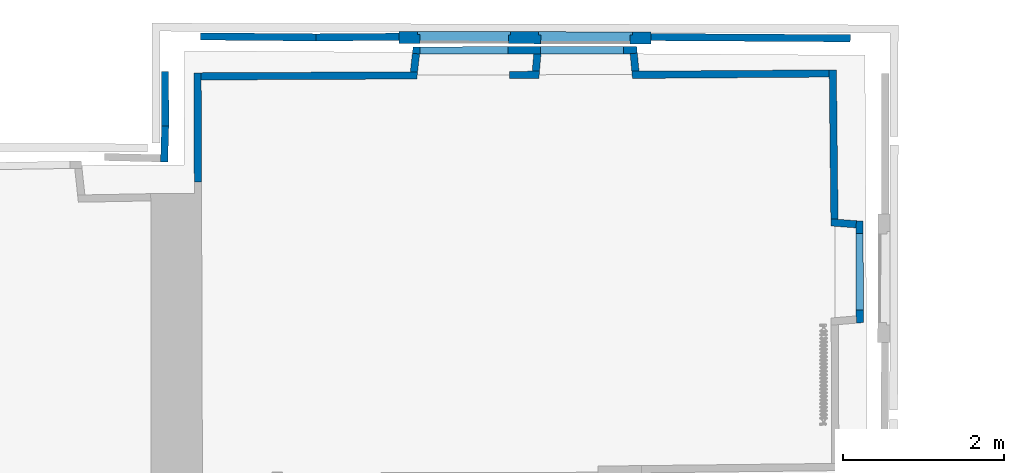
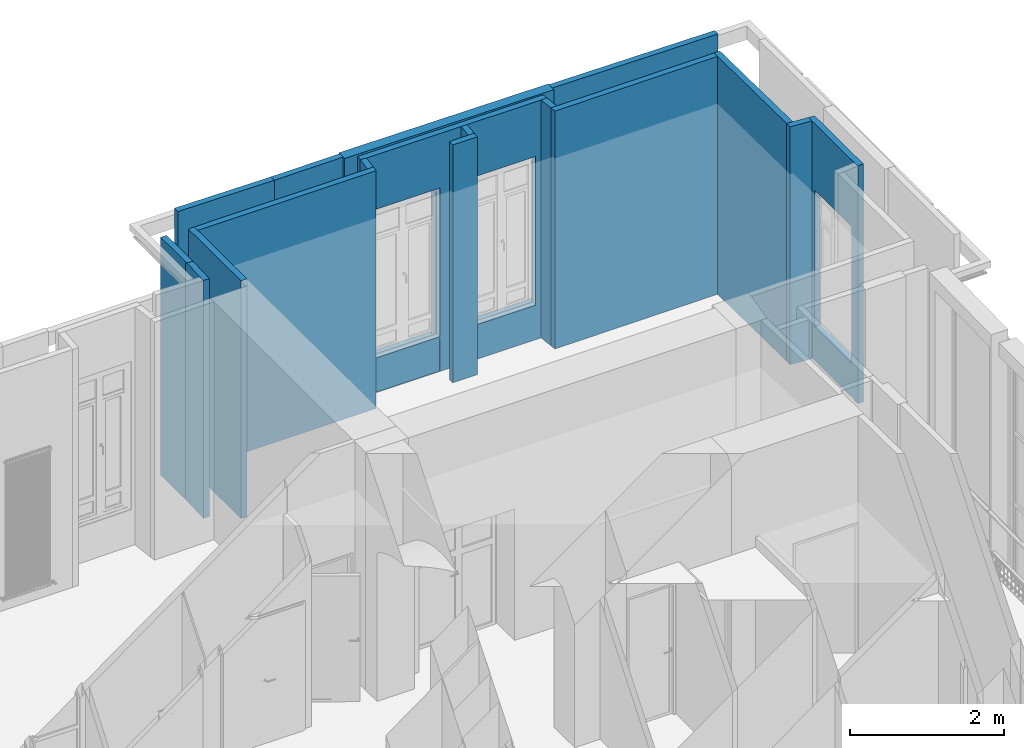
# One storey, part 17 of 66: 17 walls, 7 openings.
"""IFC2X3 building model written with IfcOpenShell, lengths in centimetres."""

from ifc_helpers import new_model, entity, si_unit, converted_unit, direction, frame, origin, origin_with_axes, origin_2d_with_axis, place, context, subcontext, project, spatial, polyline, rectangle, outline, extrude, faceted_brep, shape, material, layer, layer_set, layer_usage, type_object, element, save


model = new_model("IFC2X3")

# Units and contexts
model_context = context("Model", 3, precision=0.0001, world=origin(), true_north=direction((0.225632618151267, 0.974212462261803, 0.0)))
body_context = subcontext(model_context, "Body", "Model", "MODEL_VIEW")
footprint_context = subcontext(model_context, "FootPrint", "Model", "MODEL_VIEW")
profile_context = subcontext(model_context, "Profile", "Model", "MODEL_VIEW")
ifc_project = project(units=[si_unit("LENGTHUNIT", "METRE", prefix="CENTI"), si_unit("AREAUNIT", "SQUARE_METRE", prefix="CENTI"), si_unit("VOLUMEUNIT", "CUBIC_METRE", prefix="CENTI"), converted_unit("PLANEANGLEUNIT", "DEGREE", entity("IfcRatioMeasure", 0.0174532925), si_unit("PLANEANGLEUNIT", "RADIAN"), dimensions=[0, 0, 0, 0, 0, 0, 0])], contexts=[model_context])

# Site, building, storey
site_placement = place(None, origin_with_axes())
site = spatial("IfcSite", under=ifc_project, at=site_placement, Name="Default Site", CompositionType="ELEMENT")
building_placement = place(site_placement, origin_with_axes())
building = spatial("IfcBuilding", under=site, at=building_placement, Name="Default Building", CompositionType="ELEMENT")
storey_placement = place(building_placement, frame((0.0, 0.0, 477.795358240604), z_axis=(0.0, 0.0, 1.0), x_axis=(1.0, 0.0, 0.0)))
storey = spatial("IfcBuildingStorey", under=building, at=storey_placement, Name="Niveau 1", CompositionType="ELEMENT", Elevation=477.795358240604)

# Walls
ifc_material = material(Name="<aucun>")
ifc_layer_1 = layer(ifc_material, 9.0)
ifc_layer_set_1 = layer_set([ifc_layer_1], Name="default")
ifc_layer_usage_1 = layer_usage(ifc_layer_set_1, "AXIS2", "POSITIVE", -4.5)
wall_type_1 = type_object("IfcWallType", Name="default 90", PredefinedType="NOTDEFINED", material=ifc_layer_set_1)
wall_1_placement = place(storey_placement, frame((678.490961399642, 706.35423345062, 0.0128503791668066), z_axis=(0.0, 0.0, 1.0), x_axis=(0.999989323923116, 0.00462082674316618, 0.0)))
element("IfcWallStandardCase", 1, at=wall_1_placement, inside=storey, type_object=wall_type_1, material=ifc_layer_usage_1, Name="Enveloppe 750970", context=body_context, shape_type="SweptSolid", body=[
    extrude(outline(polyline([(-8.88178419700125e-14, 4.50000000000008), (-8.88178419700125e-14, -4.4999999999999), (36.6832158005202, -4.49999999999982), (37.4913403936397, 4.50000000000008), (-8.88178419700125e-14, 4.50000000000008)])), frame((0.0, 0.0, -8.88178419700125e-14), z_axis=(0.0, 0.0, 1.0), x_axis=(1.0, 0.0, 0.0)), (0.0, 0.0, 1.0), 376.102165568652),
])
ifc_layer_usage_2 = layer_usage(ifc_layer_set_1, "AXIS2", "POSITIVE", -4.5)
wall_2_placement = place(storey_placement, frame((710.706219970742, 702.351728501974, 0.0128503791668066), z_axis=(0.0, 0.0, 1.0), x_axis=(0.0848285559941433, 0.996395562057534, 0.0)))
element("IfcWallStandardCase", 2, at=wall_2_placement, inside=storey, type_object=wall_type_1, material=ifc_layer_usage_2, Name="Enveloppe 751070", context=body_context, shape_type="SweptSolid", body=[
    extrude(outline(polyline([(8.28206683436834, 4.50000000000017), (9.09019142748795, -4.49999999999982), (30.641776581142, -4.49999999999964), (29.8621883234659, 4.49999999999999), (8.28206683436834, 4.50000000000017)])), frame((0.0, 0.0, 1.77635683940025e-13), z_axis=(0.0, 0.0, 1.0), x_axis=(1.0, 0.0, 0.0)), (0.0, 0.0, 1.0), 376.102165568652),
])
ifc_layer_usage_3 = layer_usage(ifc_layer_set_1, "AXIS2", "POSITIVE", -4.5)
wall_3_placement = place(storey_placement, frame((1082.01971511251, 518.980635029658, 0.0128503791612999), z_axis=(0.0, 0.0, 1.0), x_axis=(-0.011252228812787, 0.9999366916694, 0.0)))
element("IfcWallStandardCase", 3, at=wall_3_placement, inside=storey, type_object=wall_type_1, material=ifc_layer_usage_3, Name="Enveloppe 597120", context=body_context, shape_type="SweptSolid", body=[
    extrude(outline(polyline([(193.770221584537, 4.50000000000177), (9.03313270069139, 4.49999999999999), (8.2323796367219, -4.50000000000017), (193.731778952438, -4.49999999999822), (193.770221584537, 4.50000000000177)])), origin_with_axes(), (0.0, 0.0, 1.0), 376.102165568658),
])

# Wall, openings
ifc_layer_usage_4 = layer_usage(ifc_layer_set_1, "AXIS2", "POSITIVE", -4.5)
wall_4_placement = place(storey_placement, frame((1113.364510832, 403.269412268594, 0.0128503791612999), z_axis=(0.0, 0.0, 1.0), x_axis=(-0.00298457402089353, 0.999995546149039, 0.0)))
wall_4 = element("IfcWallStandardCase", 4, at=wall_4_placement, inside=storey, type_object=wall_type_1, material=ifc_layer_usage_4, Name="Enveloppe 597122", context=body_context, shape_type="SweptSolid", body=[
    extrude(outline(polyline([(113.264703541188, 4.50000000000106), (4.15170625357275, 4.49999999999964), (-4.81916934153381, 3.77654229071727), (-4.15170625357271, -4.49999999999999), (121.568116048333, -4.49999999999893), (122.235579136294, 3.77654229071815), (113.264703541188, 4.50000000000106)])), frame((0.0, 0.0, -8.88178419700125e-14), z_axis=(0.0, 0.0, 1.0), x_axis=(1.0, 0.0, 0.0)), (0.0, 0.0, 1.0), 376.102165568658),
])
opening_1_placement = place(wall_4_placement, frame((4.1517062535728, -2.27373675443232e-13, -8.88178419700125e-16), z_axis=(0.0, 0.0, 1.0), x_axis=(1.0, 8.13585310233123e-15, 0.0)))
cartesian_point_1 = entity("IfcCartesianPoint", [0.0, 0.0, 53.9])
cartesian_point_2 = entity("IfcCartesianPoint", [109.112997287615, 4.49999999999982])
element("IfcOpeningElement", 5, at=opening_1_placement, cuts=wall_4, Name="Baie 103169", ObjectType="Recess", shapes=[
    shape(body_context, "Body", "Brep", [faceted_brep([(-1.26850652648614e-05, 24.5000141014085, 53.8999842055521), (109.112974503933, 24.5000141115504, 53.8999842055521), (109.112974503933, 24.5000141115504, -1.92276754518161e-05), (-1.26850652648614e-05, 24.5000141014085, -1.92276754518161e-05), (-1.2683113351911e-05, 3.5000120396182, -1.92276754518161e-05), (-1.2683113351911e-05, 3.5000120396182, 53.8999842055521), (109.112974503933, 24.5000380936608, -1.92276754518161e-05), (109.11300252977, 3.50003603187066, -1.92276754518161e-05), (1.53407706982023e-05, 3.50001203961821, -1.92276754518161e-05), (109.112974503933, 24.5000380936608, 53.8999842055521), (109.112974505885, 3.50003603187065, 53.8999842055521), (109.112974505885, 3.50003603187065, -1.92276754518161e-05), (1.53407706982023e-05, 3.50001203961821, 53.8999842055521), (109.11300252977, 3.50003603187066, 53.8999842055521), (109.11300252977, 3.50001204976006, -1.92276754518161e-05), (109.11300252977, 3.50001204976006, 53.8999842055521)], [[[0, 1, 2, 3]], [[3, 4, 5, 0]], [[6, 7, 8, 3]], [[9, 10, 11, 6]], [[0, 12, 13, 9]], [[12, 8, 14, 15]]])]),
    shape(profile_context, "Profile", "GeometricCurveSet", [entity("IfcGeometricCurveSet", [entity("IfcPolyline", [cartesian_point_1, entity("IfcCartesianPoint", [0.0, 0.0, 0.0]), entity("IfcCartesianPoint", [109.112997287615, 0.0, 0.0]), entity("IfcCartesianPoint", [109.112997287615, 0.0, 53.9]), cartesian_point_1])])]),
    shape(footprint_context, "FootPrint", "GeometricCurveSet", [entity("IfcGeometricCurveSet", [entity("IfcPolyline", [cartesian_point_2, entity("IfcCartesianPoint", [0.0, 4.49999999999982]), entity("IfcCartesianPoint", [-8.88178419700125e-14, -4.49999999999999]), entity("IfcCartesianPoint", [109.112997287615, -4.49999999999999]), cartesian_point_2])])]),
])
opening_2_placement = place(wall_4_placement, frame((11.1517062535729, -2.27373675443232e-13, 54.8871496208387), z_axis=(0.0, 0.0, 1.0), x_axis=(1.0, 8.13585310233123e-15, 0.0)))
cartesian_point_3 = entity("IfcCartesianPoint", [0.0, 1.77635683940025e-13, 216.0])
cartesian_point_4 = entity("IfcCartesianPoint", [95.1129972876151, 4.49999999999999])
element("IfcOpeningElement", 6, at=opening_2_placement, cuts=wall_4, Name="4294966469_11", ObjectType="Opening", shapes=[
    shape(body_context, "Body", "SweptSolid", [extrude(outline(polyline([(0.0, 216.0), (0.0, 0.0), (95.1129972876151, 0.0), (95.1129972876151, 216.0), (0.0, 216.0)])), frame((0.0, 14.5, 0.0), z_axis=(0.0, -1.0, 0.0), x_axis=(1.0, 0.0, 0.0)), (0.0, 0.0, 1.0), 29.0)]),
    shape(profile_context, "Profile", "GeometricCurveSet", [entity("IfcGeometricCurveSet", [entity("IfcPolyline", [cartesian_point_3, entity("IfcCartesianPoint", [0.0, 1.77635683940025e-13, 0.0]), entity("IfcCartesianPoint", [95.112997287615, 1.77635683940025e-13, 0.0]), entity("IfcCartesianPoint", [95.112997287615, 1.77635683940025e-13, 216.0]), cartesian_point_3])])]),
    shape(footprint_context, "FootPrint", "GeometricCurveSet", [entity("IfcGeometricCurveSet", [entity("IfcPolyline", [cartesian_point_4, entity("IfcCartesianPoint", [0.0, 4.50000000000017]), entity("IfcCartesianPoint", [-8.88178419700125e-14, -4.49999999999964]), entity("IfcCartesianPoint", [95.112997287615, -4.49999999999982]), cartesian_point_4])])]),
])

# Walls
ifc_layer_usage_5 = layer_usage(ifc_layer_set_1, "AXIS2", "POSITIVE", -4.5)
wall_5_placement = place(storey_placement, frame((1108.87482410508, 521.006678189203, 0.0128503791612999), z_axis=(0.0, 0.0, 1.0), x_axis=(-0.996999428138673, 0.0774089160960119, 0.0)))
element("IfcWallStandardCase", 7, at=wall_5_placement, inside=storey, type_object=wall_type_1, material=ifc_layer_usage_5, Name="Enveloppe 597027", context=body_context, shape_type="SweptSolid", body=[
    extrude(outline(polyline([(31.9005269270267, -4.50000000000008), (31.0997738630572, 4.4999999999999), (1.77635683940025e-13, 4.50000000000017), (1.77635683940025e-13, -4.4999999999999), (31.9005269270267, -4.50000000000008)])), origin_with_axes(), (0.0, 0.0, 1.0), 376.102165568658),
])
ifc_layer_usage_6 = layer_usage(ifc_layer_set_1, "AXIS2", "POSITIVE", -4.5)
wall_6_placement = place(storey_placement, frame((296.164521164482, 704.587550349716, 0.0128503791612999), z_axis=(0.0, 0.0, 1.0), x_axis=(0.999989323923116, 0.00462082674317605, 0.0)))
element("IfcWallStandardCase", 8, at=wall_6_placement, inside=storey, type_object=wall_type_1, material=ifc_layer_usage_6, Name="Enveloppe 597556", context=body_context, shape_type="SweptSolid", body=[
    extrude(outline(polyline([(0.0138745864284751, 4.49999999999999), (-0.00038270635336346, -4.49999999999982), (267.51561751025, -4.4999999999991), (268.568408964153, 4.5000000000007), (0.0138745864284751, 4.49999999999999)])), origin_with_axes(), (0.0, 0.0, 1.0), 376.102165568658),
])
ifc_layer_usage_7 = layer_usage(ifc_layer_set_1, "AXIS2", "POSITIVE", -4.5)
wall_7_placement = place(storey_placement, frame((819.140221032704, 706.399264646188, 0.0128503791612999), z_axis=(0.0, 0.0, 1.0), x_axis=(0.999975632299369, 0.0069810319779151, 0.0)))
element("IfcWallStandardCase", 9, at=wall_7_placement, inside=storey, type_object=wall_type_1, material=ifc_layer_usage_7, Name="Enveloppe 597427", context=body_context, shape_type="SweptSolid", body=[
    extrude(outline(polyline([(11.3072421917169, 4.49999999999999), (12.1058786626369, -4.50000000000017), (256.275533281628, -4.49999999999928), (256.237090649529, 4.50000000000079), (11.3072421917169, 4.49999999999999)])), origin_with_axes(), (0.0, 0.0, 1.0), 376.102165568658),
])
ifc_layer_usage_8 = layer_usage(ifc_layer_set_1, "AXIS2", "POSITIVE", -4.5)
wall_8_placement = place(storey_placement, frame((835.733655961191, 702.653731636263, 0.0128503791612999), z_axis=(0.0, 0.0, 1.0), x_axis=(-0.095341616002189, 0.995444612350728, 0.0)))
element("IfcWallStandardCase", 10, at=wall_8_placement, inside=storey, type_object=wall_type_1, material=ifc_layer_usage_8, Name="Enveloppe 597462", context=body_context, shape_type="SweptSolid", body=[
    extrude(outline(polyline([(30.5789533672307, 4.49999999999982), (8.79345444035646, 4.49999999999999), (7.99481796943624, -4.49999999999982), (30.5789533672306, -4.49999999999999), (30.5789533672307, 4.49999999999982)])), frame((0.0, 0.0, -2.66453525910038e-13), z_axis=(0.0, 0.0, 1.0), x_axis=(1.0, 0.0, 0.0)), (0.0, 0.0, 1.0), 376.102165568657),
])
ifc_layer_usage_9 = layer_usage(ifc_layer_set_1, "AXIS2", "POSITIVE", -4.5)
wall_9_placement = place(storey_placement, frame((559.294444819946, 702.433784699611, 0.0128503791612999), z_axis=(0.0, 0.0, 1.0), x_axis=(0.111593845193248, 0.99375389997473, 0.0)))
element("IfcWallStandardCase", 11, at=wall_9_placement, inside=storey, type_object=wall_type_1, material=ifc_layer_usage_9, Name="Enveloppe 597590", context=body_context, shape_type="SweptSolid", body=[
    extrude(outline(polyline([(7.39688406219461, 4.49999999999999), (8.44967551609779, -4.4999999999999), (30.5383632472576, -4.50000000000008), (30.5383632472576, 4.49999999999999), (7.39688406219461, 4.49999999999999)])), origin_with_axes(), (0.0, 0.0, 1.0), 376.102165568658),
])
ifc_layer_usage_10 = layer_usage(ifc_layer_set_1, "AXIS2", "POSITIVE", -4.5)
wall_10_placement = place(storey_placement, frame((292.070071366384, 573.252993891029, 0.0128503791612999), z_axis=(0.0, 0.0, 1.0), x_axis=(-0.00303669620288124, 0.999995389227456, 0.0)))
element("IfcWallStandardCase", 12, at=wall_10_placement, inside=storey, type_object=wall_type_1, material=ifc_layer_usage_10, Name="Enveloppe 92637", context=body_context, shape_type="SweptSolid", body=[
    extrude(outline(polyline([(135.807276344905, 4.49999999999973), (0.0, 4.49999999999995), (0.0, -4.49999999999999), (135.821533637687, -4.5000000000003), (135.807276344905, 4.49999999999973)])), frame((0.0, 0.0, -2.66453525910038e-13), z_axis=(0.0, 0.0, 1.0), x_axis=(1.0, 0.0, 0.0)), (0.0, 0.0, 1.0), 376.102165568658),
])

# Wall, openings
ifc_layer_usage_11 = layer_usage(ifc_layer_set_1, "AXIS2", "POSITIVE", -4.5)
wall_11_placement = place(storey_placement, frame((553.661144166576, 736.75930817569, 0.0128503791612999), z_axis=(0.0, 0.0, 1.0), x_axis=(0.999998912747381, 0.00147461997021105, 0.0)))
wall_11 = element("IfcWallStandardCase", 13, at=wall_11_placement, inside=storey, type_object=wall_type_1, material=ifc_layer_usage_11, Name="Enveloppe 597463", context=body_context, shape_type="SweptSolid", body=[
    extrude(outline(polyline([(155.087994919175, 4.50000000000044), (5.47248589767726, 4.4999999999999), (4.56417112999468, -3.48246780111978), (13.5064654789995, -4.49999999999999), (155.087994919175, -4.49999999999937), (274.743839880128, -4.4931533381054), (283.631484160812, -3.6551375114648), (282.862536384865, 4.50000000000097), (155.087994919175, 4.50000000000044)])), origin_with_axes(), (0.0, 0.0, 1.0), 376.102165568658),
])
opening_3_placement = place(wall_11_placement, frame((13.802566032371, 1.13686837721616e-13, 0.0427702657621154), z_axis=(0.0, 0.0, 1.0), x_axis=(-1.0, -3.55097895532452e-15, 0.0)))
cartesian_point_5 = entity("IfcCartesianPoint", [0.0, 0.0, 52.5000000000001])
cartesian_point_6 = entity("IfcCartesianPoint", [-109.572289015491, -4.49999999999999])
element("IfcOpeningElement", 14, at=opening_3_placement, cuts=wall_11, Name="Baie 103161", ObjectType="Recess", shapes=[
    shape(body_context, "Body", "Brep", [faceted_brep([(-4.97626944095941e-06, 24.4999871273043, -1.72003466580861e-05), (-109.572296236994, 24.4999871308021, -1.72003466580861e-05), (-109.572296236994, 24.4999871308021, 52.4999923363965), (-4.97626944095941e-06, 24.4999871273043, 52.4999923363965), (-4.97693980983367e-06, 3.50000812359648, 52.4999923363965), (-4.97693980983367e-06, 3.50000812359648, -1.72003466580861e-05), (2.24506305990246e-05, 3.50000812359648, -1.72003466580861e-05), (-109.572268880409, 3.49998549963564, -1.72003466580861e-05), (-109.572296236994, 24.5000121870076, -1.72003466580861e-05), (-109.572296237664, 3.49998549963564, -1.72003466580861e-05), (-109.572296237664, 3.49998549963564, 52.4999923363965), (-109.572296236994, 24.5000121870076, 52.4999923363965), (-109.572268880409, 3.49998549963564, 52.4999923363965), (2.24506305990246e-05, 3.50000812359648, 52.4999923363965), (2.24506305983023e-05, 3.49998549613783, -1.72003466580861e-05), (2.24506305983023e-05, 3.49998549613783, 52.4999923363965)], [[[0, 1, 2, 3]], [[3, 4, 5, 0]], [[0, 6, 7, 8]], [[8, 9, 10, 11]], [[11, 12, 13, 3]], [[12, 7, 14, 15]]])]),
    shape(profile_context, "Profile", "GeometricCurveSet", [entity("IfcGeometricCurveSet", [entity("IfcPolyline", [cartesian_point_5, entity("IfcCartesianPoint", [0.0, 0.0, 8.88178419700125e-14]), entity("IfcCartesianPoint", [-109.572289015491, 8.88178419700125e-14, 8.88178419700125e-14]), entity("IfcCartesianPoint", [-109.572289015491, 8.88178419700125e-14, 52.5000000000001]), cartesian_point_5])])]),
    shape(footprint_context, "FootPrint", "GeometricCurveSet", [entity("IfcGeometricCurveSet", [entity("IfcPolyline", [cartesian_point_6, entity("IfcCartesianPoint", [0.0, -4.50000000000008]), entity("IfcCartesianPoint", [0.0, 4.49999999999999]), entity("IfcCartesianPoint", [-109.572289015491, 4.49999999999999]), cartesian_point_6])])]),
])
opening_4_placement = place(wall_11_placement, frame((13.802566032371, 1.13686837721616e-13, 54.8871496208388), z_axis=(0.0, 0.0, 1.0), x_axis=(-1.0, -3.55097895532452e-15, 0.0)))
cartesian_point_7 = entity("IfcCartesianPoint", [0.0, 0.0, 235.0])
cartesian_point_8 = entity("IfcCartesianPoint", [-109.572289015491, -4.49999999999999])
element("IfcOpeningElement", 15, at=opening_4_placement, cuts=wall_11, Name="4294966471_11", ObjectType="Opening", shapes=[
    shape(body_context, "Body", "SweptSolid", [extrude(outline(polyline([(0.0, 235.0), (0.0, 8.88178419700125e-14), (109.572289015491, 8.88178419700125e-14), (109.572289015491, 235.0), (0.0, 235.0)])), frame((0.0, -14.5, 0.0), z_axis=(0.0, 1.0, 0.0), x_axis=(-1.0, 0.0, 0.0)), (0.0, 0.0, 1.0), 29.0)]),
    shape(profile_context, "Profile", "GeometricCurveSet", [entity("IfcGeometricCurveSet", [entity("IfcPolyline", [cartesian_point_7, entity("IfcCartesianPoint", [0.0, 0.0, 8.88178419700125e-14]), entity("IfcCartesianPoint", [-109.572289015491, 8.88178419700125e-14, 8.88178419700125e-14]), entity("IfcCartesianPoint", [-109.572289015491, 8.88178419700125e-14, 235.0]), cartesian_point_7])])]),
    shape(footprint_context, "FootPrint", "GeometricCurveSet", [entity("IfcGeometricCurveSet", [entity("IfcPolyline", [cartesian_point_8, entity("IfcCartesianPoint", [0.0, -4.50000000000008]), entity("IfcCartesianPoint", [0.0, 4.49999999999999]), entity("IfcCartesianPoint", [-109.572289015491, 4.49999999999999]), cartesian_point_8])])]),
])
opening_5_placement = place(wall_11_placement, frame((163.673665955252, 6.82121026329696e-13, 54.5871496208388), z_axis=(0.0, 0.0, 1.0), x_axis=(-1.0, -3.39376964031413e-15, 0.0)))
cartesian_point_9 = entity("IfcCartesianPoint", [0.0, 0.0, 235.0])
cartesian_point_10 = entity("IfcCartesianPoint", [-102.866001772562, -4.49999999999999])
element("IfcOpeningElement", 16, at=opening_5_placement, cuts=wall_11, Name="4294966468_11", ObjectType="Opening", shapes=[
    shape(body_context, "Body", "SweptSolid", [extrude(outline(polyline([(0.0, 235.0), (0.0, 8.88178419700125e-14), (102.866001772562, 8.88178419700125e-14), (102.866001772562, 235.0), (0.0, 235.0)])), frame((0.0, -14.5, 0.0), z_axis=(0.0, 1.0, 0.0), x_axis=(-1.0, 0.0, 0.0)), (0.0, 0.0, 1.0), 29.0)]),
    shape(profile_context, "Profile", "GeometricCurveSet", [entity("IfcGeometricCurveSet", [entity("IfcPolyline", [cartesian_point_9, entity("IfcCartesianPoint", [0.0, 0.0, 8.88178419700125e-14]), entity("IfcCartesianPoint", [-102.866001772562, 8.88178419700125e-14, 8.88178419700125e-14]), entity("IfcCartesianPoint", [-102.866001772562, 8.88178419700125e-14, 235.0]), cartesian_point_9])])]),
    shape(footprint_context, "FootPrint", "GeometricCurveSet", [entity("IfcGeometricCurveSet", [entity("IfcPolyline", [cartesian_point_10, entity("IfcCartesianPoint", [0.0, -4.49999999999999]), entity("IfcCartesianPoint", [0.0, 4.49999999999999]), entity("IfcCartesianPoint", [-102.866001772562, 4.50000000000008]), cartesian_point_10])])]),
])

# Walls
ifc_layer_usage_12 = layer_usage(ifc_layer_set_1, "AXIS2", "POSITIVE", -4.5)
wall_type_2 = type_object("IfcWallType", Name="default 90", PredefinedType="NOTDEFINED", material=ifc_layer_set_1)
wall_12_placement = place(storey_placement, frame((250.458172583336, 607.261768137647, 0.0128503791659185), z_axis=(0.0, 0.0, 1.0), x_axis=(0.0284959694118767, 0.999593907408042, 0.0)))
element("IfcWallStandardCase", 17, at=wall_12_placement, inside=storey, type_object=wall_type_2, material=ifc_layer_usage_12, Name="Enveloppe 425112", context=body_context, shape_type="SweptSolid", body=[
    extrude(outline(polyline([(-8.99988852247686, 4.45520510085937), (-8.95531602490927, -4.50000000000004), (35.79453589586, -4.49999999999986), (35.7945358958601, 4.34939682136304), (39.9930335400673, 4.50000000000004), (-8.88178419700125e-14, 4.49999999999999), (-8.99988852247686, 4.45520510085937)])), frame((0.0, 0.0, -2.66453525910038e-13), z_axis=(0.0, 0.0, 1.0), x_axis=(1.0, 0.0, 0.0)), (0.0, 0.0, 1.0), 376.102165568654),
])
ifc_layer_usage_13 = layer_usage(ifc_layer_set_1, "AXIS2", "POSITIVE", -4.5)
wall_13_placement = place(storey_placement, frame((438.541050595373, 752.950168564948, 0.0128503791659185), z_axis=(0.0, 0.0, 1.0), x_axis=(-0.999962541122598, 0.00865542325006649, 0.0)))
element("IfcWallStandardCase", 18, at=wall_13_placement, inside=storey, type_object=wall_type_2, material=ifc_layer_usage_13, Name="Enveloppe 424905", context=body_context, shape_type="SweptSolid", body=[
    extrude(rectangle(XDim=9.00000000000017, YDim=143.277244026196, at=origin_2d_with_axis()), frame((71.6839398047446, 0.000151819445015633, -5.06261699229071e-12), z_axis=(0.0, 0.0, 1.0), x_axis=(1.70002900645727e-16, -1.0, 0.0)), (0.0, 0.0, 1.0), 376.102165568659),
])
ifc_layer_usage_14 = layer_usage(ifc_layer_set_1, "AXIS2", "POSITIVE", -4.5)
wall_14_placement = place(storey_placement, frame((251.630399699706, 643.201606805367, 0.0128503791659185), z_axis=(0.0, 0.0, 1.0), x_axis=(-0.00735546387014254, 0.999972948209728, 0.0)))
element("IfcWallStandardCase", 19, at=wall_14_placement, inside=storey, type_object=wall_type_2, material=ifc_layer_usage_14, Name="Enveloppe 425087", context=body_context, shape_type="SweptSolid", body=[
    extrude(outline(polyline([(67.6161972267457, 4.49999999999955), (-0.00279887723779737, 4.50000000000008), (-0.32002918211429, -4.34370900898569), (4.03703262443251, -4.49999999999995), (67.6161972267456, -4.50000000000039), (67.6161972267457, 4.49999999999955)])), frame((0.0, 0.0, -3.5527136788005e-13), z_axis=(0.0, 0.0, 1.0), x_axis=(1.0, 0.0, 0.0)), (0.0, 0.0, 1.0), 376.102165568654),
])
ifc_layer_usage_15 = layer_usage(ifc_layer_set_1, "AXIS2", "POSITIVE", -4.5)
wall_15_placement = place(storey_placement, frame((1101.69227034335, 751.851960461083, 0.0128503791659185), z_axis=(0.0, 0.0, 1.0), x_axis=(-0.999980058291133, 0.0063153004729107, 0.0)))
element("IfcWallStandardCase", 20, at=wall_15_placement, inside=storey, type_object=wall_type_2, material=ifc_layer_usage_15, Name="Enveloppe 424817", context=body_context, shape_type="SweptSolid", body=[
    extrude(outline(polyline([(247.222306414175, 4.49999999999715), (0.151043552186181, 4.49999999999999), (0.151043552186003, -4.49999999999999), (247.25421171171, -4.50000000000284), (247.222306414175, 4.49999999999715)])), origin_with_axes(), (0.0, 0.0, 1.0), 376.102165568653),
])
ifc_layer_usage_16 = layer_usage(ifc_layer_set_1, "AXIS2", "POSITIVE", -4.5)
wall_16_placement = place(storey_placement, frame((438.615562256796, 752.95005319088, 0.0128503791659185), z_axis=(0.0, 0.0, 1.0), x_axis=(0.999970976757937, 0.0076187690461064, 0.0)))
element("IfcWallStandardCase", 21, at=wall_16_placement, inside=storey, type_object=wall_type_2, material=ifc_layer_usage_16, Name="Enveloppe 424841", context=body_context, shape_type="SweptSolid", body=[
    extrude(outline(polyline([(-0.19305932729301, -4.49896349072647), (103.194590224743, -4.50000000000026), (103.294590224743, 4.49999999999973), (-0.0465922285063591, 4.50039561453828), (-0.19305932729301, -4.49896349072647)])), frame((0.0, 0.0, 8.88178419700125e-14), z_axis=(0.0, 0.0, 1.0), x_axis=(1.0, 0.0, 0.0)), (0.0, 0.0, 1.0), 376.102165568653),
])

# Wall, openings
ifc_layer_2 = layer(ifc_material, 15.0)
ifc_layer_set_2 = layer_set([ifc_layer_2], Name="default")
ifc_layer_usage_17 = layer_usage(ifc_layer_set_2, "AXIS2", "POSITIVE", -7.5)
wall_type_3 = type_object("IfcWallType", Name="default 150", PredefinedType="NOTDEFINED", material=ifc_layer_set_2)
wall_17_placement = place(storey_placement, frame((854.455515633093, 752.176668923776, 0.0128503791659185), z_axis=(0.0, 0.0, 1.0), x_axis=(-0.999996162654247, 0.00277032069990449, 0.0)))
wall_17 = element("IfcWallStandardCase", 22, at=wall_17_placement, inside=storey, type_object=wall_type_3, material=ifc_layer_usage_17, Name="Enveloppe 426578", context=body_context, shape_type="SweptSolid", body=[
    extrude(rectangle(XDim=14.9999999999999, YDim=312.598234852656, at=origin_2d_with_axis()), frame((156.299117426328, 1.50990331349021e-12, 0.0), z_axis=(0.0, 0.0, 1.0), x_axis=(-1.69135538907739e-17, -1.0, 0.0)), (0.0, 0.0, 1.0), 376.102165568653),
])
opening_6_placement = place(wall_17_placement, frame((174.265701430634, 1.70530256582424e-12, 45.7869154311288), z_axis=(0.0, 0.0, 1.0), x_axis=(-1.0, -9.11163505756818e-15, 0.0)))
cartesian_point_11 = entity("IfcCartesianPoint", [0.0, 8.88178419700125e-14, 246.832889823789])
cartesian_point_12 = entity("IfcCartesianPoint", [-115.718944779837, -7.49999999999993])
element("IfcOpeningElement", 23, at=opening_6_placement, cuts=wall_17, Name="Baie 426929", ObjectType="Opening", shapes=[
    shape(body_context, "Body", "Brep", [faceted_brep([(-3.00001462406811, -27.5000106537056, 246.832913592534), (-112.71894921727, -27.5000106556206, 246.832913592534), (-112.71894921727, -27.5000106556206, 1.83136031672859e-05), (-3.00001462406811, -27.5000106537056, 1.83136031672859e-05), (-3.1350246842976e-07, 27.4999950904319, 1.83136031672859e-05), (-115.718952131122, 27.4999950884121, 1.83136031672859e-05), (-115.718952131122, 27.4999950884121, 246.832913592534), (-3.1350246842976e-07, 27.4999950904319, 246.832913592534), (-3.00001462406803, -27.5000106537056, 1.83136031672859e-05), (-3.0000146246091, 3.50000721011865, 1.83136031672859e-05), (-3.00001462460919, 3.50000721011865, 246.832913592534), (-3.00001624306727, 3.50000721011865, 246.832913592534), (-3.00001624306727, 3.50000721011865, 1.83136031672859e-05), (1.62109081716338e-05, 3.50000721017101, 1.83136031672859e-05), (1.62109081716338e-05, 3.50000721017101, 246.832913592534), (1.62109081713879e-05, 3.50002129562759, 246.832913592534), (1.62109081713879e-05, 3.50002129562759, 1.83136031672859e-05), (1.62104892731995e-05, 27.4999950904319, 1.83136031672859e-05), (1.62104892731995e-05, 27.4999950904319, 246.832913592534), (-112.71894921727, -27.4999836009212, 1.83136031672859e-05), (-112.71895070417, 3.49998657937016, 1.83136031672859e-05), (-115.718935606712, 3.50002030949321, 1.83136031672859e-05), (-115.718952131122, 27.4999941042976, 1.83136031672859e-05), (-112.71894921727, -27.4999836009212, 246.832913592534), (-112.718949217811, 3.49998657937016, 246.832913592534), (-112.718949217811, 3.49998657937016, 1.83136031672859e-05), (-112.71895070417, 3.49998657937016, 246.832913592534), (-115.718935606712, 3.4999865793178, 246.832913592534), (-115.718935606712, 3.4999865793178, 1.83136031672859e-05), (-115.718935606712, 3.50002030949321, 246.832913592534), (-115.718935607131, 27.4999941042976, 246.832913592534), (-115.718935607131, 27.4999941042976, 1.83136031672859e-05), (-115.718952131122, 27.4999941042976, 246.832913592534)], [[[0, 1, 2, 3]], [[4, 5, 6, 7]], [[0, 8, 9, 10]], [[11, 12, 13, 14]], [[15, 16, 17, 18]], [[3, 19, 20, 21, 22, 4, 16, 12]], [[19, 23, 24, 25]], [[20, 26, 27, 28]], [[21, 29, 30, 31]], [[11, 15, 7, 32, 29, 26, 23, 0]]])]),
    shape(profile_context, "Profile", "GeometricCurveSet", [entity("IfcGeometricCurveSet", [entity("IfcPolyline", [cartesian_point_11, entity("IfcCartesianPoint", [0.0, 8.88178419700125e-14, -8.88178419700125e-14]), entity("IfcCartesianPoint", [-115.718944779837, 1.77635683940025e-13, -8.88178419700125e-14]), entity("IfcCartesianPoint", [-115.718944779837, 1.77635683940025e-13, 246.832889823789]), cartesian_point_11])])]),
    shape(footprint_context, "FootPrint", "GeometricCurveSet", [entity("IfcGeometricCurveSet", [entity("IfcPolyline", [cartesian_point_12, entity("IfcCartesianPoint", [0.0, -7.49999999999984]), entity("IfcCartesianPoint", [1.77635683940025e-13, 7.5000000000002]), entity("IfcCartesianPoint", [-115.718944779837, 7.50000000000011]), cartesian_point_12])])]),
])
opening_7_placement = place(wall_17_placement, frame((23.2529729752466, 2.27373675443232e-13, 45.9303608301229), z_axis=(0.0, 0.0, 1.0), x_axis=(-1.0, -9.11163505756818e-15, 0.0)))
cartesian_point_13 = entity("IfcCartesianPoint", [0.0, 8.88178419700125e-14, 246.832889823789])
cartesian_point_14 = entity("IfcCartesianPoint", [-116.70932757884, -7.49999999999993])
element("IfcOpeningElement", 24, at=opening_7_placement, cuts=wall_17, Name="Baie 426928", ObjectType="Opening", shapes=[
    shape(body_context, "Body", "Brep", [faceted_brep([(-3.00002910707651, -27.4999862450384, 246.832900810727), (-113.709310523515, -27.4999862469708, 246.832900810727), (-113.709310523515, -27.4999862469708, 5.53179653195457e-06), (-3.00002910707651, -27.4999862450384, 5.53179653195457e-06), (-1.47965106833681e-05, 27.500019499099, 5.53179653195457e-06), (-116.709313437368, 27.5000194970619, 5.53179653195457e-06), (-116.709313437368, 27.5000194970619, 246.832900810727), (-1.47965106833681e-05, 27.500019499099, 246.832900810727), (-3.00002910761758, 3.4999840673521, 5.53179653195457e-06), (-3.00002910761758, 3.4999840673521, 246.832900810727), (-2.99998291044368, 3.4999840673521, 246.832900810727), (-2.99998291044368, 3.4999840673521, 5.53179653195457e-06), (1.85999908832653e-06, 3.49998406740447, 5.53179653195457e-06), (1.85999908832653e-06, 3.49998406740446, 246.832900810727), (1.85999908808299e-06, 3.49999802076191, 246.832900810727), (1.85999926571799e-06, 3.49999802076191, 5.53179653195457e-06), (1.85958036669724e-06, 27.500019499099, 5.53179653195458e-06), (1.85958018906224e-06, 27.500019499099, 246.832900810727), (-113.709310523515, -27.4999847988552, 5.53179653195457e-06), (-113.709312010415, 3.49998538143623, 5.53179653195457e-06), (-116.70934459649, 3.50001897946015, 5.53179653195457e-06), (-116.709313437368, 27.4999929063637, 5.53179653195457e-06), (1.85999908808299e-06, 3.49999802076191, 5.53179653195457e-06), (-113.709310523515, -27.4999847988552, 246.832900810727), (-113.709310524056, 3.49998538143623, 246.832900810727), (-113.709310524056, 3.49998538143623, 5.53179653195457e-06), (-113.709312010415, 3.49998538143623, 246.832900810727), (-116.70934459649, 3.49998538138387, 246.832900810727), (-116.70934459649, 3.49998538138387, 5.53179653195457e-06), (-116.70934459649, 3.50001897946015, 246.832900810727), (-116.709344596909, 27.4999929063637, 246.832900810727), (-116.709344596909, 27.4999929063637, 5.53179653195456e-06), (-116.709313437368, 27.4999929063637, 246.832900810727)], [[[0, 1, 2, 3]], [[4, 5, 6, 7]], [[0, 3, 8, 9]], [[10, 11, 12, 13]], [[14, 15, 16, 17]], [[3, 18, 19, 20, 21, 4, 22, 11]], [[18, 23, 24, 25]], [[19, 26, 27, 28]], [[20, 29, 30, 31]], [[10, 14, 7, 32, 29, 26, 23, 0]]])]),
    shape(profile_context, "Profile", "GeometricCurveSet", [entity("IfcGeometricCurveSet", [entity("IfcPolyline", [cartesian_point_13, entity("IfcCartesianPoint", [0.0, 8.88178419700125e-14, -8.88178419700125e-14]), entity("IfcCartesianPoint", [-116.70932757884, 8.88178419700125e-14, -8.88178419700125e-14]), entity("IfcCartesianPoint", [-116.70932757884, 8.88178419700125e-14, 246.832889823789]), cartesian_point_13])])]),
    shape(footprint_context, "FootPrint", "GeometricCurveSet", [entity("IfcGeometricCurveSet", [entity("IfcPolyline", [cartesian_point_14, entity("IfcCartesianPoint", [-1.77635683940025e-13, -7.49999999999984]), entity("IfcCartesianPoint", [0.0, 7.5000000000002]), entity("IfcCartesianPoint", [-116.70932757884, 7.50000000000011]), cartesian_point_14])])]),
])

save(model, "model.ifc")
